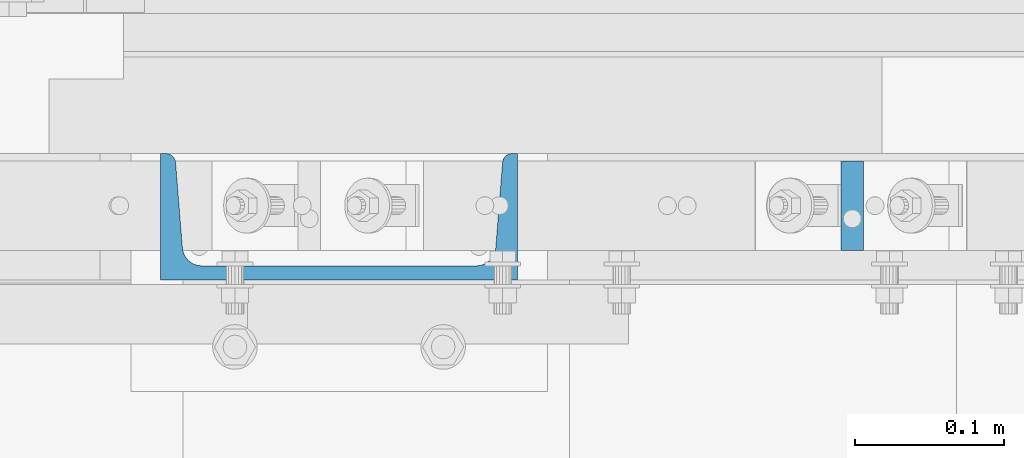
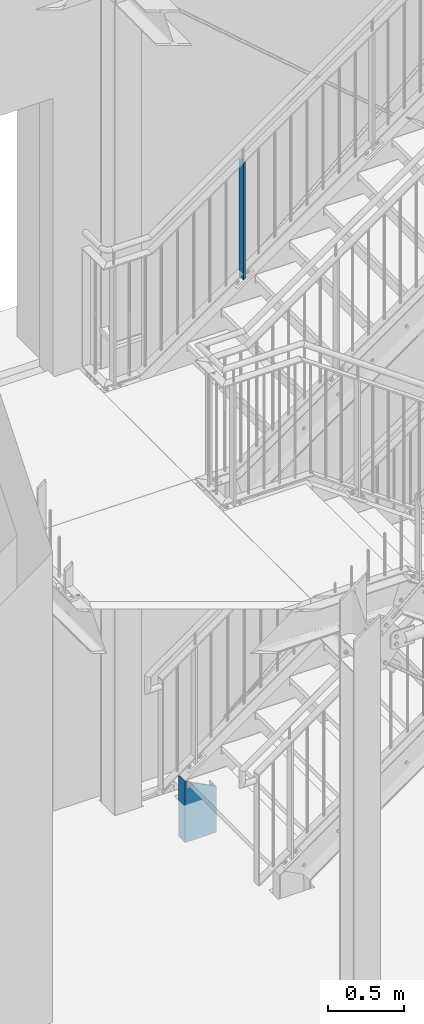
# One storey, part 75 of 831: 2 columns, 1 opening.
"""IFC2X3 building model written with IfcOpenShell, lengths in millimetres."""

from ifc_helpers import new_model, entity, si_unit, converted_unit, frame, frame_2d, origin, origin_with_axes, origin_2d, origin_2d_with_axis, place, context, project, spatial, rectangle, circle, u_section, extrude, clip, halfspace, material, element, save


model = new_model("IFC2X3")

# Units and contexts
model_context = context("Model", 3, precision=1e-09, world=origin_with_axes())
ifc_project = project(units=[si_unit("LENGTHUNIT", "METRE", prefix="MILLI"), si_unit("AREAUNIT", "SQUARE_METRE"), si_unit("VOLUMEUNIT", "CUBIC_METRE"), converted_unit("PLANEANGLEUNIT", "DEGREE", entity("IfcPlaneAngleMeasure", 0.01745329), si_unit("PLANEANGLEUNIT", "RADIAN"), dimensions=[0, 0, 0, 0, 0, 0, 0])], contexts=[model_context])

# Site, building, storey
site_placement = place(None, origin_with_axes())
site = spatial("IfcSite", under=ifc_project, at=site_placement, Name="Site", CompositionType="ELEMENT")
building_placement = place(site_placement, origin_with_axes())
building = spatial("IfcBuilding", under=site, at=building_placement, Name="Struktur 1", CompositionType="ELEMENT")
storey_placement = place(building_placement, origin_with_axes())
storey = spatial("IfcBuildingStorey", under=building, at=storey_placement, Name="Default Storey", CompositionType="ELEMENT", Elevation=0.0)

# Column
ifc_material = material(Name="S235JR")
column_1_placement = place(None, frame((5686.71354585, 7356.736971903, 5385.817723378), z_axis=(0.0, 0.0, 1.0), x_axis=(1.0, 0.0, 0.0)))
element("IfcColumn", 1, at=column_1_placement, inside=storey, material=ifc_material, Name="Railing_Post_Stair#1", ObjectType="Railing_Post_Stair#1", context=model_context, shape_type="Clipping", body=[
    clip(clip(extrude(rectangle(XDim=15.0, YDim=60.0, at=origin_2d()), origin(), (0.0, 0.0, -1.0), 1013.014378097), halfspace(frame((-5880.856299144, -7356.736971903, -5109.668802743), z_axis=(-0.575128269, 0.0, 0.818063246), x_axis=(0.0, -1.0, 0.0)), True)), halfspace(frame((-6321.899880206, -7356.736971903, -4482.327803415), z_axis=(0.575128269, 0.0, -0.818063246), x_axis=(0.0, 1.0, 0.0)), True)),
])

# Column, opening
column_2_placement = place(None, frame((5341.713402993, 7329.036971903, 735.471854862), z_axis=(0.0, 0.0, 1.0), x_axis=(0.0, 1.0, 0.0)))
column_2 = element("IfcColumn", 2, at=column_2_placement, inside=storey, material=ifc_material, Name="Stringer", ObjectType="Stringer", context=model_context, shape_type="Clipping", body=[
    clip(extrude(u_section(Depth=240.0, FlangeWidth=85.0, WebThickness=9.5, FlangeThickness=13.0, FilletRadius=13.0, EdgeRadius=6.5, FlangeSlope=4.574, at=frame_2d((20.2, 0.0))), origin(), (0.0, 0.0, -1.0), 685.471854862), halfspace(frame((-7329.036971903, 4023.331766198, 1821.512085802), z_axis=(0.0, 0.458271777, -0.888812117), x_axis=(-1.0, 0.0, 0.0)), True)),
])
opening_placement = place(column_2_placement, frame((-22.8, 70.0, -235.366592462), z_axis=(1.0, 0.0, 0.0), x_axis=(0.0, -1.0, 0.0)))
element("IfcOpeningElement", 3, at=opening_placement, cuts=column_2, ObjectType="Opening", context=model_context, shape_type="SweptSolid", body=[
    extrude(circle(Radius=7.001, at=origin_2d_with_axis()), origin(), (0.0, 0.0, 1.0), 10.5),
])

save(model, "model.ifc")
